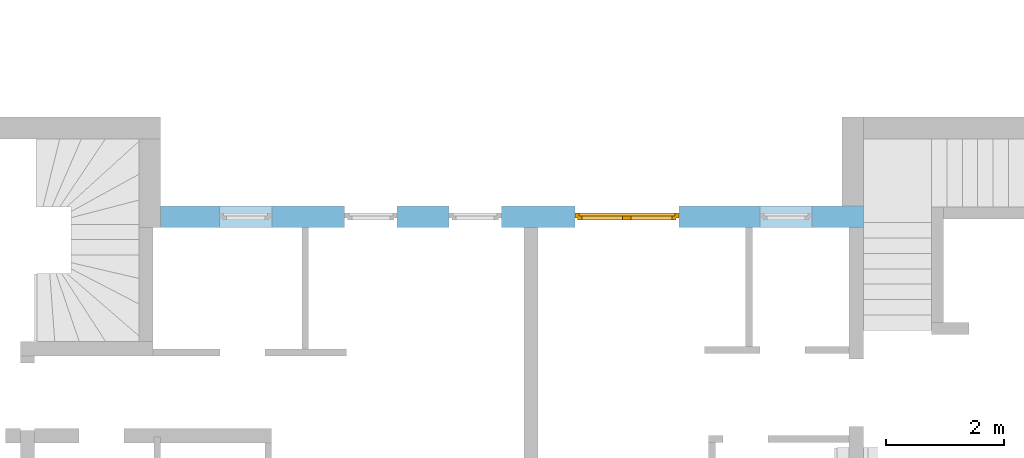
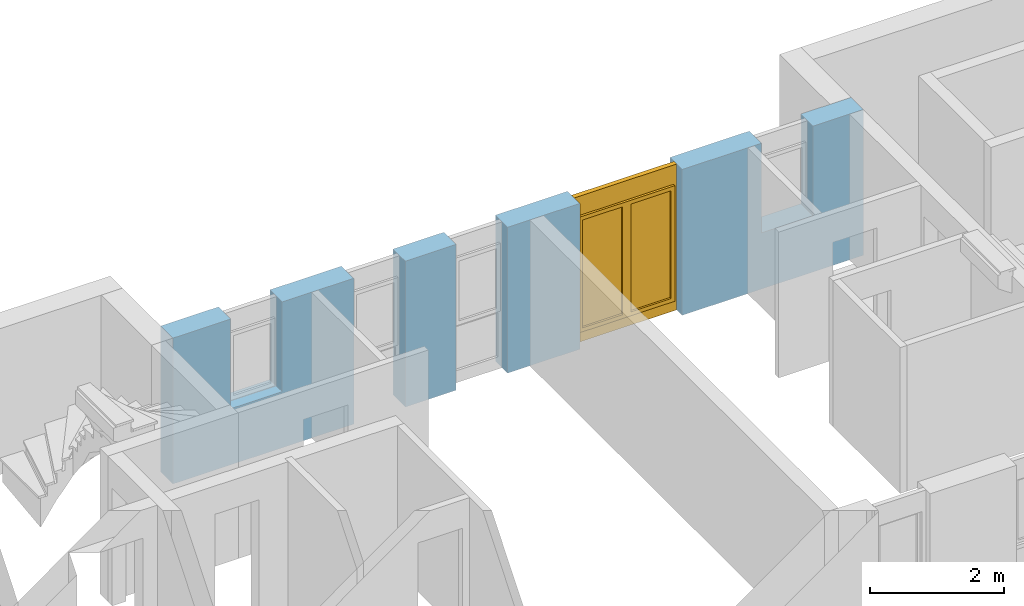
# One storey, part 36 of 42: 1 window, 5 openings, plus 1 element that does not belong to this part.
"""IFC2X3 building model written with IfcOpenShell, lengths in millimetres."""

from ifc_helpers import new_model, entity, si_unit, converted_unit, frame, frame_2d, origin, origin_with_axes, place, context, subcontext, project, spatial, rectangle, extrude, faceted_brep, material, layer, layer_set, layer_usage, type_object, element, fill, save


model = new_model("IFC2X3")

# Units and contexts
model_context = context("Model", 3, precision=1e-05, world=origin())
body_context = subcontext(model_context, "Body", "Model", "MODEL_VIEW")
ifc_project = project(units=[si_unit("LENGTHUNIT", "METRE", prefix="MILLI"), converted_unit("PLANEANGLEUNIT", "DEGREE", entity("IfcPlaneAngleMeasure", 0.0174532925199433), si_unit("PLANEANGLEUNIT", "RADIAN"), dimensions=[0, 0, 0, 0, 0, 0, 0]), si_unit("AREAUNIT", "SQUARE_METRE"), si_unit("VOLUMEUNIT", "CUBIC_METRE")], contexts=[model_context])

# Building, storey
building_placement = place(None, origin())
building = spatial("IfcBuilding", under=ifc_project, at=building_placement, Name="Gebäude", CompositionType="ELEMENT")
storey_placement = place(building_placement, frame((0.0, 0.0, 2730.0), z_axis=(0.0, 0.0, 1.0), x_axis=(1.0, 0.0, 0.0)))
storey = spatial("IfcBuildingStorey", under=building, at=storey_placement, Name="OG.- Grundriss", CompositionType="ELEMENT", Elevation=2730.0)

# Wall, openings, window
ifc_material_1 = material(Name="Poroton")
ifc_layer = layer(ifc_material_1, 365.0000000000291)
ifc_layer_set = layer_set([ifc_layer])
ifc_layer_usage = layer_usage(ifc_layer_set, "AXIS2", "POSITIVE", 0.0)
wall_placement = place(storey_placement, frame((176237.7928067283, 134774.8877324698, 0.0), z_axis=(0.0, 0.0, 1.0), x_axis=(-1.0, 0.0, 0.0)))
wall = element("IfcWallStandardCase", 1, at=wall_placement, inside=storey, material=ifc_layer_usage, Name="<Unnamed Element>", context=body_context, shape_type="SweptSolid", body=[
    extrude(rectangle(XDim=11869.99999999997, YDim=365.0000000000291, at=frame_2d((5934.999999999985, 182.5000000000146), x_axis=(1.0, 0.0))), origin_with_axes(), (0.0, 0.0, 1.0), 2650.0),
])
opening_1_placement = place(wall_placement, frame((7875.000000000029, 0.0, 0.0), z_axis=(0.0, 1.0, 0.0), x_axis=(0.0, 0.0, 1.0)))
element("IfcOpeningElement", 2, at=opening_1_placement, cuts=wall, Name="Fensteröffnung", ObjectType="Opening", context=body_context, shape_type="SweptSolid", body=[
    extrude(rectangle(XDim=2650.0, YDim=885.0, at=frame_2d((1325.0, 442.5), x_axis=(1.0, 0.0))), origin_with_axes(), (0.0, 0.0, 1.0), 365.0000000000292),
])
opening_2_placement = place(wall_placement, frame((6115.000000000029, 0.0, 0.0), z_axis=(0.0, 1.0, 0.0), x_axis=(0.0, 0.0, 1.0)))
element("IfcOpeningElement", 3, at=opening_2_placement, cuts=wall, Name="Fensteröffnung", ObjectType="Opening", context=body_context, shape_type="SweptSolid", body=[
    extrude(rectangle(XDim=2650.0, YDim=885.0, at=frame_2d((1325.0, 442.5), x_axis=(1.0, 0.0))), origin_with_axes(), (0.0, 0.0, 1.0), 365.0000000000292),
])
opening_3_placement = place(wall_placement, frame((9990.00000000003, 0.0, 1020.0), z_axis=(0.0, 1.0, 0.0), x_axis=(0.0, 0.0, 1.0)))
element("IfcOpeningElement", 4, at=opening_3_placement, cuts=wall, Name="Fensteröffnung", ObjectType="Opening", context=body_context, shape_type="SweptSolid", body=[
    extrude(rectangle(XDim=1630.0, YDim=885.0, at=frame_2d((815.0, 442.5), x_axis=(1.0, 0.0))), origin_with_axes(), (0.0, 0.0, 1.0), 365.0000000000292),
])
opening_4_placement = place(wall_placement, frame((3115.000000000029, 0.0, 0.0), z_axis=(0.0, 1.0, 0.0), x_axis=(0.0, 0.0, 1.0)))
opening_4 = element("IfcOpeningElement", 5, at=opening_4_placement, cuts=wall, Name="Fensteröffnung", ObjectType="Opening", context=body_context, shape_type="SweptSolid", body=[
    extrude(rectangle(XDim=2650.0, YDim=1760.0, at=frame_2d((1325.0, 880.0), x_axis=(1.0, 0.0))), origin_with_axes(), (0.0, 0.0, 1.0), 365.0000000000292),
])
opening_5_placement = place(wall_placement, frame((865.0000000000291, 0.0, 1020.0), z_axis=(0.0, 1.0, 0.0), x_axis=(0.0, 0.0, 1.0)))
element("IfcOpeningElement", 6, at=opening_5_placement, cuts=wall, Name="Fensteröffnung", ObjectType="Opening", context=body_context, shape_type="SweptSolid", body=[
    extrude(rectangle(XDim=1630.0, YDim=885.0, at=frame_2d((815.0, 442.5), x_axis=(1.0, 0.0))), origin_with_axes(), (0.0, 0.0, 1.0), 365.0000000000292),
])
ifc_material_2 = material()
window_style = type_object("IfcWindowStyle", Name="Fenster", ConstructionType="NOTDEFINED", OperationType="USERDEFINED", ParameterTakesPrecedence=False, Sizeable=False)
window_placement = place(opening_4_placement, frame((0.0, 0.0, 0.0), z_axis=(1.0, 0.0, 0.0), x_axis=(0.0, 1.0, 0.0)))
window = element("IfcWindow", 7, at=window_placement, inside=storey, type_object=window_style, material=ifc_material_2, Name="Fenster", OverallHeight=2650.0, OverallWidth=1760.0, context=body_context, shape_type="Brep", body=[
    faceted_brep([(9.797174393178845e-15, 200.0000000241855, 2650.0), (9.797174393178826e-15, 200.0000000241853, -2.449293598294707e-15), (70.00000000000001, 200.0000000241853, -2.449293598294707e-15), (70.00000000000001, 200.0000000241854, 2650.0), (0.0, 120.0000000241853, 2.449293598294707e-15), (1.914360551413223e-29, 120.0000000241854, 2650.0), (70.0, 120.0000000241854, 2650.0), (70.0, 120.0000000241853, 2.449293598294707e-15), (9.797174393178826e-15, 200.0000000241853, -2.449293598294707e-15), (9.797174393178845e-15, 200.0000000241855, 2650.0), (1.914360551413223e-29, 120.0000000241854, 2650.0), (0.0, 120.0000000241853, 2.449293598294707e-15), (70.00000000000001, 200.0000000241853, -2.449293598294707e-15), (9.797174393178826e-15, 200.0000000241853, -2.449293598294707e-15), (0.0, 120.0000000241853, 2.449293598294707e-15), (70.0, 120.0000000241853, 2.449293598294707e-15), (70.00000000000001, 200.0000000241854, 2650.0), (70.00000000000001, 200.0000000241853, -2.449293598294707e-15), (70.0, 120.0000000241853, 2.449293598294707e-15), (70.0, 120.0000000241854, 2650.0), (9.797174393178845e-15, 200.0000000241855, 2650.0), (70.00000000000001, 200.0000000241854, 2650.0), (70.0, 120.0000000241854, 2650.0), (1.914360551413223e-29, 120.0000000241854, 2650.0)], [[[0, 1, 2, 3]], [[4, 5, 6, 7]], [[8, 9, 10, 11]], [[12, 13, 14, 15]], [[16, 17, 18, 19]], [[20, 21, 22, 23]]], orient=[[False], [False], [False], [False], [False], [False]]),
    faceted_brep([(1690.000000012, 200.0000000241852, 2650.0), (1690.000000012, 200.0000000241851, -2.449293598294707e-15), (1760.000000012, 200.0000000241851, -2.449293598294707e-15), (1760.000000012, 200.0000000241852, 2650.0), (1690.000000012, 120.0000000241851, 2.449293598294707e-15), (1690.000000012, 120.0000000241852, 2650.0), (1760.000000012, 120.0000000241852, 2650.0), (1760.000000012, 120.0000000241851, 2.449293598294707e-15), (1690.000000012, 200.0000000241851, -2.449293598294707e-15), (1690.000000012, 200.0000000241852, 2650.0), (1690.000000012, 120.0000000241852, 2650.0), (1690.000000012, 120.0000000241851, 2.449293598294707e-15), (1760.000000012, 200.0000000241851, -2.449293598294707e-15), (1690.000000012, 200.0000000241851, -2.449293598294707e-15), (1690.000000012, 120.0000000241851, 2.449293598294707e-15), (1760.000000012, 120.0000000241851, 2.449293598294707e-15), (1760.000000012, 200.0000000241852, 2650.0), (1760.000000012, 200.0000000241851, -2.449293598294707e-15), (1760.000000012, 120.0000000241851, 2.449293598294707e-15), (1760.000000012, 120.0000000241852, 2650.0), (1690.000000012, 200.0000000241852, 2650.0), (1760.000000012, 200.0000000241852, 2650.0), (1760.000000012, 120.0000000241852, 2650.0), (1690.000000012, 120.0000000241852, 2650.0)], [[[0, 1, 2, 3]], [[4, 5, 6, 7]], [[8, 9, 10, 11]], [[12, 13, 14, 15]], [[16, 17, 18, 19]], [[20, 21, 22, 23]]], orient=[[False], [False], [False], [False], [False], [False]]),
    faceted_brep([(70.00000000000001, 200.0000000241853, 220.0), (70.00000000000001, 200.0000000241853, -2.449293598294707e-15), (1690.000000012, 200.0000000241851, -2.449293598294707e-15), (1690.000000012, 200.0000000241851, 220.0), (70.0, 120.0000000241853, 2.449293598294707e-15), (70.0, 120.0000000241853, 220.0), (1690.000000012, 120.0000000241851, 220.0), (1690.000000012, 120.0000000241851, 2.449293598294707e-15), (70.00000000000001, 200.0000000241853, -2.449293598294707e-15), (70.00000000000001, 200.0000000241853, 220.0), (70.0, 120.0000000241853, 220.0), (70.0, 120.0000000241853, 2.449293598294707e-15), (1690.000000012, 200.0000000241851, -2.449293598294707e-15), (70.00000000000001, 200.0000000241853, -2.449293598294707e-15), (70.0, 120.0000000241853, 2.449293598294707e-15), (1690.000000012, 120.0000000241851, 2.449293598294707e-15), (1690.000000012, 200.0000000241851, 220.0), (1690.000000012, 200.0000000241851, -2.449293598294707e-15), (1690.000000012, 120.0000000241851, 2.449293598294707e-15), (1690.000000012, 120.0000000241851, 220.0), (70.00000000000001, 200.0000000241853, 220.0), (1690.000000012, 200.0000000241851, 220.0), (1690.000000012, 120.0000000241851, 220.0), (70.0, 120.0000000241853, 220.0)], [[[0, 1, 2, 3]], [[4, 5, 6, 7]], [[8, 9, 10, 11]], [[12, 13, 14, 15]], [[16, 17, 18, 19]], [[20, 21, 22, 23]]], orient=[[False], [False], [False], [False], [False], [False]]),
    faceted_brep([(70.00000000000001, 200.0000000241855, 2650.0), (70.00000000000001, 200.0000000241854, 2280.0), (1690.000000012, 200.0000000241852, 2280.0), (1690.000000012, 200.0000000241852, 2650.0), (70.0, 120.0000000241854, 2280.0), (70.0, 120.0000000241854, 2650.0), (1690.000000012, 120.0000000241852, 2650.0), (1690.000000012, 120.0000000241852, 2280.0), (70.00000000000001, 200.0000000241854, 2280.0), (70.00000000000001, 200.0000000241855, 2650.0), (70.0, 120.0000000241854, 2650.0), (70.0, 120.0000000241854, 2280.0), (1690.000000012, 200.0000000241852, 2280.0), (70.00000000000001, 200.0000000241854, 2280.0), (70.0, 120.0000000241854, 2280.0), (1690.000000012, 120.0000000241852, 2280.0), (1690.000000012, 200.0000000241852, 2650.0), (1690.000000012, 200.0000000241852, 2280.0), (1690.000000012, 120.0000000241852, 2280.0), (1690.000000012, 120.0000000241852, 2650.0), (70.00000000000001, 200.0000000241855, 2650.0), (1690.000000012, 200.0000000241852, 2650.0), (1690.000000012, 120.0000000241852, 2650.0), (70.0, 120.0000000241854, 2650.0)], [[[0, 1, 2, 3]], [[4, 5, 6, 7]], [[8, 9, 10, 11]], [[12, 13, 14, 15]], [[16, 17, 18, 19]], [[20, 21, 22, 23]]], orient=[[False], [False], [False], [False], [False], [False]]),
    faceted_brep([(50.00000000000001, 240.0000000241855, 2300.0), (50.00000000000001, 240.0000000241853, 200.0), (120.0, 240.0000000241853, 200.0), (120.0, 240.0000000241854, 2300.0), (50.00000000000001, 170.0000000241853, 200.0), (50.00000000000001, 170.0000000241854, 2300.0), (120.0, 170.0000000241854, 2300.0), (120.0, 170.0000000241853, 200.0), (50.00000000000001, 240.0000000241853, 200.0), (50.00000000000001, 240.0000000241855, 2300.0), (50.00000000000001, 170.0000000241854, 2300.0), (50.00000000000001, 170.0000000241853, 200.0), (120.0, 240.0000000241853, 200.0), (50.00000000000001, 240.0000000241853, 200.0), (50.00000000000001, 170.0000000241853, 200.0), (120.0, 170.0000000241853, 200.0), (120.0, 240.0000000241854, 2300.0), (120.0, 240.0000000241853, 200.0), (120.0, 170.0000000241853, 200.0), (120.0, 170.0000000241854, 2300.0), (50.00000000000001, 240.0000000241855, 2300.0), (120.0, 240.0000000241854, 2300.0), (120.0, 170.0000000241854, 2300.0), (50.00000000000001, 170.0000000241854, 2300.0)], [[[0, 1, 2, 3]], [[4, 5, 6, 7]], [[8, 9, 10, 11]], [[12, 13, 14, 15]], [[16, 17, 18, 19]], [[20, 21, 22, 23]]], orient=[[False], [False], [False], [False], [False], [False]]),
    faceted_brep([(809.5000000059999, 240.0000000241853, 2300.0), (809.5000000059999, 240.0000000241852, 200.0), (879.5000000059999, 240.0000000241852, 200.0), (879.5000000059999, 240.0000000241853, 2300.0), (809.5000000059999, 170.0000000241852, 200.0), (809.5000000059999, 170.0000000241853, 2300.0), (879.5000000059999, 170.0000000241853, 2300.0), (879.5000000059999, 170.0000000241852, 200.0), (809.5000000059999, 240.0000000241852, 200.0), (809.5000000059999, 240.0000000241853, 2300.0), (809.5000000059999, 170.0000000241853, 2300.0), (809.5000000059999, 170.0000000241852, 200.0), (879.5000000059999, 240.0000000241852, 200.0), (809.5000000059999, 240.0000000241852, 200.0), (809.5000000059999, 170.0000000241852, 200.0), (879.5000000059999, 170.0000000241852, 200.0), (879.5000000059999, 240.0000000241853, 2300.0), (879.5000000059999, 240.0000000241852, 200.0), (879.5000000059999, 170.0000000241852, 200.0), (879.5000000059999, 170.0000000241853, 2300.0), (809.5000000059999, 240.0000000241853, 2300.0), (879.5000000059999, 240.0000000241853, 2300.0), (879.5000000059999, 170.0000000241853, 2300.0), (809.5000000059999, 170.0000000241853, 2300.0)], [[[0, 1, 2, 3]], [[4, 5, 6, 7]], [[8, 9, 10, 11]], [[12, 13, 14, 15]], [[16, 17, 18, 19]], [[20, 21, 22, 23]]], orient=[[False], [False], [False], [False], [False], [False]]),
    faceted_brep([(120.0, 240.0000000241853, 270.0), (120.0, 240.0000000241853, 200.0), (809.5000000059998, 240.0000000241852, 200.0), (809.5000000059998, 240.0000000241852, 270.0), (120.0, 170.0000000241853, 200.0), (120.0, 170.0000000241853, 270.0), (809.5000000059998, 170.0000000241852, 270.0), (809.5000000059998, 170.0000000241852, 200.0), (120.0, 240.0000000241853, 200.0), (120.0, 240.0000000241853, 270.0), (120.0, 170.0000000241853, 270.0), (120.0, 170.0000000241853, 200.0), (809.5000000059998, 240.0000000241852, 200.0), (120.0, 240.0000000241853, 200.0), (120.0, 170.0000000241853, 200.0), (809.5000000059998, 170.0000000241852, 200.0), (809.5000000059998, 240.0000000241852, 270.0), (809.5000000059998, 240.0000000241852, 200.0), (809.5000000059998, 170.0000000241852, 200.0), (809.5000000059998, 170.0000000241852, 270.0), (120.0, 240.0000000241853, 270.0), (809.5000000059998, 240.0000000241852, 270.0), (809.5000000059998, 170.0000000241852, 270.0), (120.0, 170.0000000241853, 270.0)], [[[0, 1, 2, 3]], [[4, 5, 6, 7]], [[8, 9, 10, 11]], [[12, 13, 14, 15]], [[16, 17, 18, 19]], [[20, 21, 22, 23]]], orient=[[False], [False], [False], [False], [False], [False]]),
    faceted_brep([(120.0, 240.0000000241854, 2300.0), (120.0, 240.0000000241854, 2230.0), (809.5000000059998, 240.0000000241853, 2230.0), (809.5000000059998, 240.0000000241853, 2300.0), (120.0, 170.0000000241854, 2230.0), (120.0, 170.0000000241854, 2300.0), (809.5000000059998, 170.0000000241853, 2300.0), (809.5000000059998, 170.0000000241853, 2230.0), (120.0, 240.0000000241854, 2230.0), (120.0, 240.0000000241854, 2300.0), (120.0, 170.0000000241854, 2300.0), (120.0, 170.0000000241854, 2230.0), (809.5000000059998, 240.0000000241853, 2230.0), (120.0, 240.0000000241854, 2230.0), (120.0, 170.0000000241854, 2230.0), (809.5000000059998, 170.0000000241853, 2230.0), (809.5000000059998, 240.0000000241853, 2300.0), (809.5000000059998, 240.0000000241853, 2230.0), (809.5000000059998, 170.0000000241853, 2230.0), (809.5000000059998, 170.0000000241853, 2300.0), (120.0, 240.0000000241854, 2300.0), (809.5000000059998, 240.0000000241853, 2300.0), (809.5000000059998, 170.0000000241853, 2300.0), (120.0, 170.0000000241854, 2300.0)], [[[0, 1, 2, 3]], [[4, 5, 6, 7]], [[8, 9, 10, 11]], [[12, 13, 14, 15]], [[16, 17, 18, 19]], [[20, 21, 22, 23]]], orient=[[False], [False], [False], [False], [False], [False]]),
    faceted_brep([(880.5000000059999, 240.0000000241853, 2300.0), (880.5000000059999, 240.0000000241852, 200.0), (950.5000000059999, 240.0000000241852, 200.0), (950.5000000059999, 240.0000000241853, 2300.0), (880.5000000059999, 170.0000000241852, 200.0), (880.5000000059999, 170.0000000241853, 2300.0), (950.5000000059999, 170.0000000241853, 2300.0), (950.5000000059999, 170.0000000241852, 200.0), (880.5000000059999, 240.0000000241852, 200.0), (880.5000000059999, 240.0000000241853, 2300.0), (880.5000000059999, 170.0000000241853, 2300.0), (880.5000000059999, 170.0000000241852, 200.0), (950.5000000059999, 240.0000000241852, 200.0), (880.5000000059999, 240.0000000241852, 200.0), (880.5000000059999, 170.0000000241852, 200.0), (950.5000000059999, 170.0000000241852, 200.0), (950.5000000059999, 240.0000000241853, 2300.0), (950.5000000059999, 240.0000000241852, 200.0), (950.5000000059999, 170.0000000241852, 200.0), (950.5000000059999, 170.0000000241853, 2300.0), (880.5000000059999, 240.0000000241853, 2300.0), (950.5000000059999, 240.0000000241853, 2300.0), (950.5000000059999, 170.0000000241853, 2300.0), (880.5000000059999, 170.0000000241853, 2300.0)], [[[0, 1, 2, 3]], [[4, 5, 6, 7]], [[8, 9, 10, 11]], [[12, 13, 14, 15]], [[16, 17, 18, 19]], [[20, 21, 22, 23]]], orient=[[False], [False], [False], [False], [False], [False]]),
    faceted_brep([(1640.000000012, 240.0000000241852, 2300.0), (1640.000000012, 240.0000000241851, 200.0), (1710.000000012, 240.0000000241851, 200.0), (1710.000000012, 240.0000000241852, 2300.0), (1640.000000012, 170.0000000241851, 200.0), (1640.000000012, 170.0000000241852, 2300.0), (1710.000000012, 170.0000000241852, 2300.0), (1710.000000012, 170.0000000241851, 200.0), (1640.000000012, 240.0000000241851, 200.0), (1640.000000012, 240.0000000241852, 2300.0), (1640.000000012, 170.0000000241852, 2300.0), (1640.000000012, 170.0000000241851, 200.0), (1710.000000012, 240.0000000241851, 200.0), (1640.000000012, 240.0000000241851, 200.0), (1640.000000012, 170.0000000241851, 200.0), (1710.000000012, 170.0000000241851, 200.0), (1710.000000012, 240.0000000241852, 2300.0), (1710.000000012, 240.0000000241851, 200.0), (1710.000000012, 170.0000000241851, 200.0), (1710.000000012, 170.0000000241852, 2300.0), (1640.000000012, 240.0000000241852, 2300.0), (1710.000000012, 240.0000000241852, 2300.0), (1710.000000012, 170.0000000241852, 2300.0), (1640.000000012, 170.0000000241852, 2300.0)], [[[0, 1, 2, 3]], [[4, 5, 6, 7]], [[8, 9, 10, 11]], [[12, 13, 14, 15]], [[16, 17, 18, 19]], [[20, 21, 22, 23]]], orient=[[False], [False], [False], [False], [False], [False]]),
    faceted_brep([(950.5000000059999, 240.0000000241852, 270.0), (950.5000000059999, 240.0000000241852, 200.0), (1640.000000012, 240.0000000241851, 200.0), (1640.000000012, 240.0000000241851, 270.0), (950.5000000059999, 170.0000000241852, 200.0), (950.5000000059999, 170.0000000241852, 270.0), (1640.000000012, 170.0000000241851, 270.0), (1640.000000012, 170.0000000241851, 200.0), (950.5000000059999, 240.0000000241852, 200.0), (950.5000000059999, 240.0000000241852, 270.0), (950.5000000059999, 170.0000000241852, 270.0), (950.5000000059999, 170.0000000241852, 200.0), (1640.000000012, 240.0000000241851, 200.0), (950.5000000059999, 240.0000000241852, 200.0), (950.5000000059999, 170.0000000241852, 200.0), (1640.000000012, 170.0000000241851, 200.0), (1640.000000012, 240.0000000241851, 270.0), (1640.000000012, 240.0000000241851, 200.0), (1640.000000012, 170.0000000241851, 200.0), (1640.000000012, 170.0000000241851, 270.0), (950.5000000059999, 240.0000000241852, 270.0), (1640.000000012, 240.0000000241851, 270.0), (1640.000000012, 170.0000000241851, 270.0), (950.5000000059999, 170.0000000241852, 270.0)], [[[0, 1, 2, 3]], [[4, 5, 6, 7]], [[8, 9, 10, 11]], [[12, 13, 14, 15]], [[16, 17, 18, 19]], [[20, 21, 22, 23]]], orient=[[False], [False], [False], [False], [False], [False]]),
    faceted_brep([(950.5000000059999, 240.0000000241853, 2300.0), (950.5000000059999, 240.0000000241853, 2230.0), (1640.000000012, 240.0000000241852, 2230.0), (1640.000000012, 240.0000000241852, 2300.0), (950.5000000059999, 170.0000000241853, 2230.0), (950.5000000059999, 170.0000000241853, 2300.0), (1640.000000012, 170.0000000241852, 2300.0), (1640.000000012, 170.0000000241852, 2230.0), (950.5000000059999, 240.0000000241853, 2230.0), (950.5000000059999, 240.0000000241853, 2300.0), (950.5000000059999, 170.0000000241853, 2300.0), (950.5000000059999, 170.0000000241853, 2230.0), (1640.000000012, 240.0000000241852, 2230.0), (950.5000000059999, 240.0000000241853, 2230.0), (950.5000000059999, 170.0000000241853, 2230.0), (1640.000000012, 170.0000000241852, 2230.0), (1640.000000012, 240.0000000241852, 2300.0), (1640.000000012, 240.0000000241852, 2230.0), (1640.000000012, 170.0000000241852, 2230.0), (1640.000000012, 170.0000000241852, 2300.0), (950.5000000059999, 240.0000000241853, 2300.0), (1640.000000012, 240.0000000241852, 2300.0), (1640.000000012, 170.0000000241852, 2300.0), (950.5000000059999, 170.0000000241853, 2300.0)], [[[0, 1, 2, 3]], [[4, 5, 6, 7]], [[8, 9, 10, 11]], [[12, 13, 14, 15]], [[16, 17, 18, 19]], [[20, 21, 22, 23]]], orient=[[False], [False], [False], [False], [False], [False]]),
    faceted_brep([(120.0, 205.0000000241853, 270.0), (809.5000000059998, 205.0000000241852, 270.0), (809.5000000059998, 205.0000000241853, 2229.999999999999), (120.0, 205.0000000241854, 2229.999999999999), (120.0, 204.0000000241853, 270.0), (120.0, 204.0000000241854, 2229.999999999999), (809.5000000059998, 204.0000000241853, 2229.999999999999), (809.5000000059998, 204.0000000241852, 270.0), (120.0, 205.0000000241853, 270.0), (120.0, 204.0000000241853, 270.0), (809.5000000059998, 204.0000000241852, 270.0), (809.5000000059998, 205.0000000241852, 270.0), (809.5000000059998, 205.0000000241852, 270.0), (809.5000000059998, 204.0000000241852, 270.0), (809.5000000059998, 204.0000000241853, 2229.999999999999), (809.5000000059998, 205.0000000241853, 2229.999999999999), (809.5000000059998, 205.0000000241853, 2229.999999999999), (809.5000000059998, 204.0000000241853, 2229.999999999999), (120.0, 204.0000000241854, 2229.999999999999), (120.0, 205.0000000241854, 2229.999999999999), (120.0, 205.0000000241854, 2229.999999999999), (120.0, 204.0000000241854, 2229.999999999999), (120.0, 204.0000000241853, 270.0), (120.0, 205.0000000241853, 270.0)], [[[0, 1, 2, 3]], [[4, 5, 6, 7]], [[8, 9, 10, 11]], [[12, 13, 14, 15]], [[16, 17, 18, 19]], [[20, 21, 22, 23]]], orient=[[False], [False], [False], [False], [False], [False]]),
    faceted_brep([(950.5000000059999, 205.0000000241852, 270.0), (1640.000000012, 205.0000000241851, 270.0), (1640.000000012, 205.0000000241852, 2229.999999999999), (950.5000000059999, 205.0000000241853, 2229.999999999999), (950.5000000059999, 204.0000000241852, 270.0), (950.5000000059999, 204.0000000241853, 2229.999999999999), (1640.000000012, 204.0000000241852, 2229.999999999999), (1640.000000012, 204.0000000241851, 270.0), (950.5000000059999, 205.0000000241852, 270.0), (950.5000000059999, 204.0000000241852, 270.0), (1640.000000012, 204.0000000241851, 270.0), (1640.000000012, 205.0000000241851, 270.0), (1640.000000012, 205.0000000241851, 270.0), (1640.000000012, 204.0000000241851, 270.0), (1640.000000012, 204.0000000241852, 2229.999999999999), (1640.000000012, 205.0000000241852, 2229.999999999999), (1640.000000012, 205.0000000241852, 2229.999999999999), (1640.000000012, 204.0000000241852, 2229.999999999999), (950.5000000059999, 204.0000000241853, 2229.999999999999), (950.5000000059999, 205.0000000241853, 2229.999999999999), (950.5000000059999, 205.0000000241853, 2229.999999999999), (950.5000000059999, 204.0000000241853, 2229.999999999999), (950.5000000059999, 204.0000000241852, 270.0), (950.5000000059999, 205.0000000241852, 270.0)], [[[0, 1, 2, 3]], [[4, 5, 6, 7]], [[8, 9, 10, 11]], [[12, 13, 14, 15]], [[16, 17, 18, 19]], [[20, 21, 22, 23]]], orient=[[False], [False], [False], [False], [False], [False]]),
])
fill(opening_4, window)

save(model, "model.ifc")
